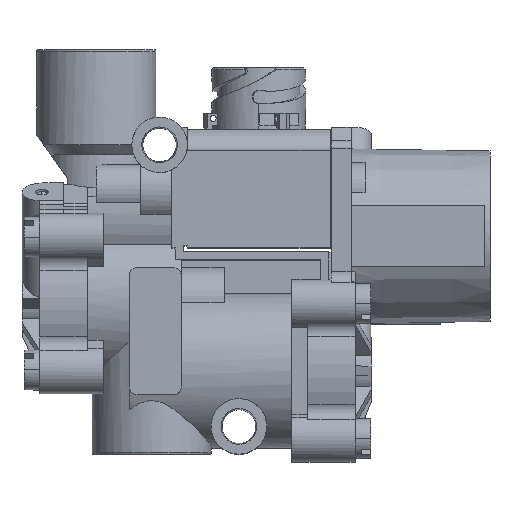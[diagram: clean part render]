
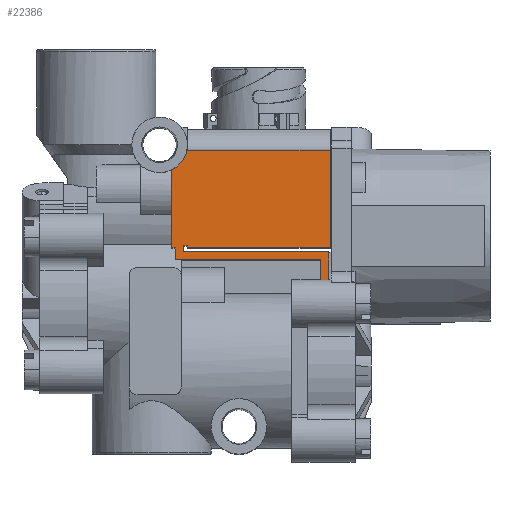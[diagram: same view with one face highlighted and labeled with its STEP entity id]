
A CAD part, top view. The second image highlights one B-rep face of the part: STEP entity #22386.
In plain terms, the highlighted planar face has unit normal (0, 0, 1).
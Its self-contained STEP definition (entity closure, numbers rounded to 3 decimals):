
#2301=DIRECTION('',(0.,1.,0.));
#2302=VECTOR('',#2301,1.5);
#2303=CARTESIAN_POINT('',(-36.3,55.5,19.5));
#2304=LINE('',#2303,#2302);
#2992=DIRECTION('',(1.,0.,0.));
#2993=VECTOR('',#2992,36.);
#2994=CARTESIAN_POINT('',(-36.3,55.5,19.5));
#2995=LINE('',#2994,#2993);
#2996=DIRECTION('',(-1.,0.,0.));
#2997=VECTOR('',#2996,36.);
#2998=CARTESIAN_POINT('',(-0.3,31.,19.5));
#2999=LINE('',#2998,#2997);
#3000=DIRECTION('',(0.,1.,0.));
#3001=VECTOR('',#3000,0.5);
#3002=CARTESIAN_POINT('',(-36.3,31.,19.5));
#3003=LINE('',#3002,#3001);
#3004=DIRECTION('',(1.,0.,0.));
#3005=VECTOR('',#3004,36.6);
#3006=CARTESIAN_POINT('',(-37.3,30.,19.5));
#3007=LINE('',#3006,#3005);
#3008=DIRECTION('',(-1.,0.,0.));
#3009=VECTOR('',#3008,2.);
#3010=CARTESIAN_POINT('',(-0.7,22.885,
19.5));
#3011=LINE('',#3010,#3009);
#3012=DIRECTION('',(0.,1.,0.));
#3013=VECTOR('',#3012,5.115);
#3014=CARTESIAN_POINT('',(-2.7,22.885,19.5));
#3015=LINE('',#3014,#3013);
#3016=DIRECTION('',(-1.,0.,0.));
#3017=VECTOR('',#3016,36.6);
#3018=CARTESIAN_POINT('',(-2.7,28.,19.5));
#3019=LINE('',#3018,#3017);
#3020=DIRECTION('',(0.,1.,0.));
#3021=VECTOR('',#3020,19.675);
#3022=CARTESIAN_POINT('',(-40.3,31.,19.5));
#3023=LINE('',#3022,#3021);
#3024=CARTESIAN_POINT('',(-43.3,57.,19.5));
#3025=DIRECTION('',(0.,0.,1.));
#3026=DIRECTION('',(0.429,-0.904,0.));
#3027=AXIS2_PLACEMENT_3D('',#3024,#3025,#3026);
#4925=DIRECTION('',(1.,0.,0.));
#4926=VECTOR('',#4925,1.);
#4927=CARTESIAN_POINT('',(-37.3,31.5,19.5));
#4928=LINE('',#4927,#4926);
#4959=DIRECTION('',(0.,1.,0.));
#4960=VECTOR('',#4959,24.5);
#4961=CARTESIAN_POINT('',(-0.3,31.,19.5));
#4962=LINE('',#4961,#4960);
#7361=DIRECTION('',(0.,1.,0.));
#7362=VECTOR('',#7361,1.5);
#7363=CARTESIAN_POINT('',(-37.3,30.,19.5));
#7364=LINE('',#7363,#7362);
#8615=DIRECTION('',(1.,0.,0.));
#8616=VECTOR('',#8615,1.);
#8617=CARTESIAN_POINT('',(-40.3,31.,19.5));
#8618=LINE('',#8617,#8616);
#8628=DIRECTION('',(0.,-1.,0.));
#8629=VECTOR('',#8628,3.);
#8630=CARTESIAN_POINT('',(-39.3,31.,19.5));
#8631=LINE('',#8630,#8629);
#11808=DIRECTION('',(0.,1.,0.));
#11809=VECTOR('',#11808,7.115);
#11810=CARTESIAN_POINT('',(-0.7,22.885,
19.5));
#11811=LINE('',#11810,#11809);
#14908=CARTESIAN_POINT('',(-40.3,50.675,19.5));
#14909=CARTESIAN_POINT('',(-36.3,57.,19.5));
#14910=VERTEX_POINT('',#14908);
#14911=VERTEX_POINT('',#14909);
#14992=CARTESIAN_POINT('',(-0.7,30.,19.5));
#14994=VERTEX_POINT('',#14992);
#14996=CARTESIAN_POINT('',(-37.3,30.,19.5));
#14997=VERTEX_POINT('',#14996);
#15002=CARTESIAN_POINT('',(-0.7,22.885,
19.5));
#15003=CARTESIAN_POINT('',(-2.7,22.885,
19.5));
#15004=VERTEX_POINT('',#15002);
#15005=VERTEX_POINT('',#15003);
#15016=CARTESIAN_POINT('',(-2.7,28.,19.5));
#15018=VERTEX_POINT('',#15016);
#15028=CARTESIAN_POINT('',(-39.3,28.,19.5));
#15029=VERTEX_POINT('',#15028);
#15116=CARTESIAN_POINT('',(-40.3,31.,19.5));
#15117=VERTEX_POINT('',#15116);
#15118=CARTESIAN_POINT('',(-37.3,31.5,19.5));
#15119=VERTEX_POINT('',#15118);
#15120=CARTESIAN_POINT('',(-39.3,31.,19.5));
#15121=VERTEX_POINT('',#15120);
#16977=CARTESIAN_POINT('',(-36.3,31.,19.5));
#16979=VERTEX_POINT('',#16977);
#16980=CARTESIAN_POINT('',(-0.3,55.5,
19.5));
#16982=VERTEX_POINT('',#16980);
#17002=CARTESIAN_POINT('',(-0.3,31.,19.5));
#17003=VERTEX_POINT('',#17002);
#18022=CARTESIAN_POINT('',(-36.3,55.5,19.5));
#18024=VERTEX_POINT('',#18022);
#18038=CARTESIAN_POINT('',(-36.3,31.5,19.5));
#18040=VERTEX_POINT('',#18038);
#22352=CARTESIAN_POINT('',(-20.5,39.942,19.5));
#22353=DIRECTION('',(0.,0.,1.));
#22354=DIRECTION('',(0.,-1.,0.));
#22355=AXIS2_PLACEMENT_3D('',#22352,#22353,#22354);
#22356=PLANE('',#22355);
#22357=ORIENTED_EDGE('',*,*,#21395,.F.);
#22359=ORIENTED_EDGE('',*,*,#22358,.T.);
#22361=ORIENTED_EDGE('',*,*,#22360,.F.);
#22363=ORIENTED_EDGE('',*,*,#22362,.T.);
#22365=ORIENTED_EDGE('',*,*,#22364,.T.);
#22367=ORIENTED_EDGE('',*,*,#22366,.F.);
#22369=ORIENTED_EDGE('',*,*,#22368,.F.);
#22370=ORIENTED_EDGE('',*,*,#18745,.T.);
#22372=ORIENTED_EDGE('',*,*,#22371,.F.);
#22373=ORIENTED_EDGE('',*,*,#18808,.T.);
#22375=ORIENTED_EDGE('',*,*,#22374,.T.);
#22377=ORIENTED_EDGE('',*,*,#22376,.T.);
#22379=ORIENTED_EDGE('',*,*,#22378,.F.);
#22381=ORIENTED_EDGE('',*,*,#22380,.F.);
#22382=ORIENTED_EDGE('',*,*,#22343,.T.);
#22383=ORIENTED_EDGE('',*,*,#22189,.T.);
#22384=EDGE_LOOP('',(#22357,#22359,#22361,#22363,#22365,#22367,#22369,#22370,
#22372,#22373,#22375,#22377,#22379,#22381,#22382,#22383));
#22385=FACE_OUTER_BOUND('',#22384,.F.);
#22386=ADVANCED_FACE('',(#22385),#22356,.T.);
#3028=CIRCLE('',#3027,7.);
#18745=EDGE_CURVE('',#14997,#14994,#3007,.T.);
#18808=EDGE_CURVE('',#15004,#15005,#3011,.T.);
#21395=EDGE_CURVE('',#18024,#14911,#2304,.T.);
#22189=EDGE_CURVE('',#14910,#14911,#3028,.T.);
#22343=EDGE_CURVE('',#15117,#14910,#3023,.T.);
#22358=EDGE_CURVE('',#18024,#16982,#2995,.T.);
#22360=EDGE_CURVE('',#17003,#16982,#4962,.T.);
#22362=EDGE_CURVE('',#17003,#16979,#2999,.T.);
#22364=EDGE_CURVE('',#16979,#18040,#3003,.T.);
#22366=EDGE_CURVE('',#15119,#18040,#4928,.T.);
#22368=EDGE_CURVE('',#14997,#15119,#7364,.T.);
#22371=EDGE_CURVE('',#15004,#14994,#11811,.T.);
#22374=EDGE_CURVE('',#15005,#15018,#3015,.T.);
#22376=EDGE_CURVE('',#15018,#15029,#3019,.T.);
#22378=EDGE_CURVE('',#15121,#15029,#8631,.T.);
#22380=EDGE_CURVE('',#15117,#15121,#8618,.T.);
